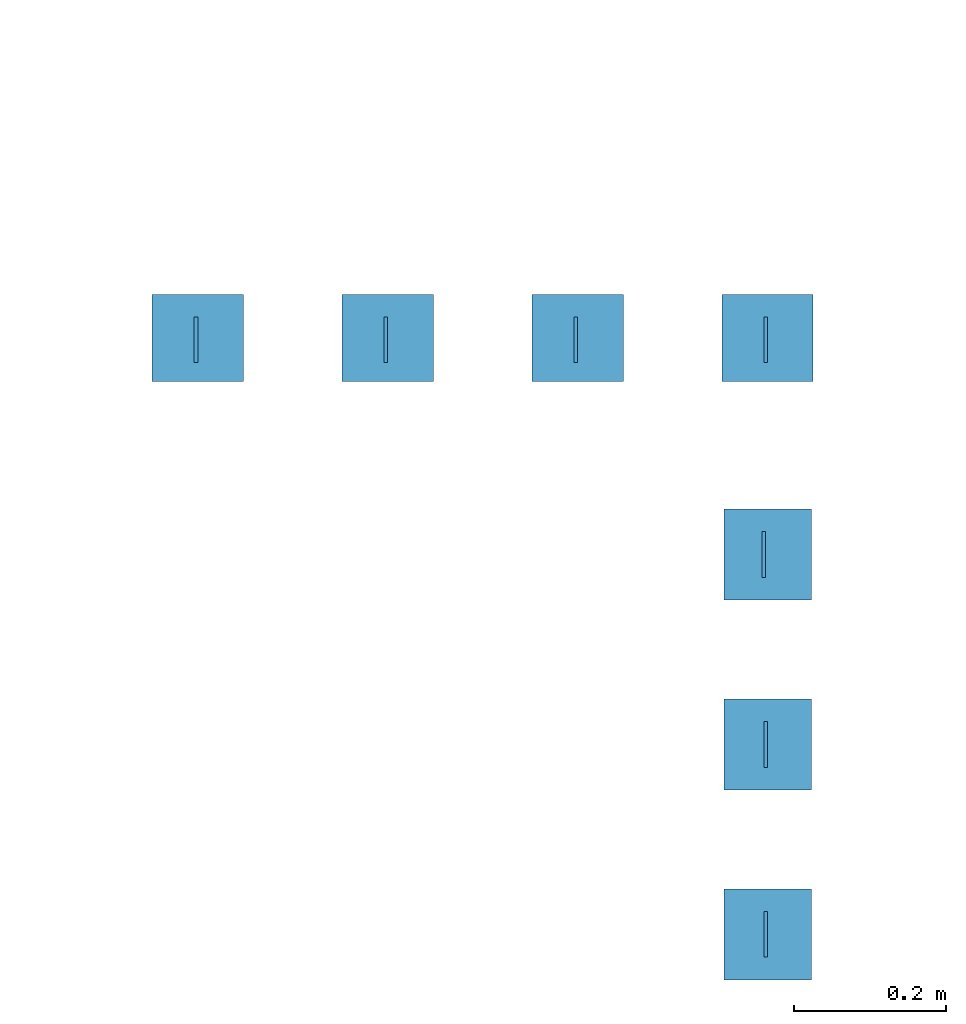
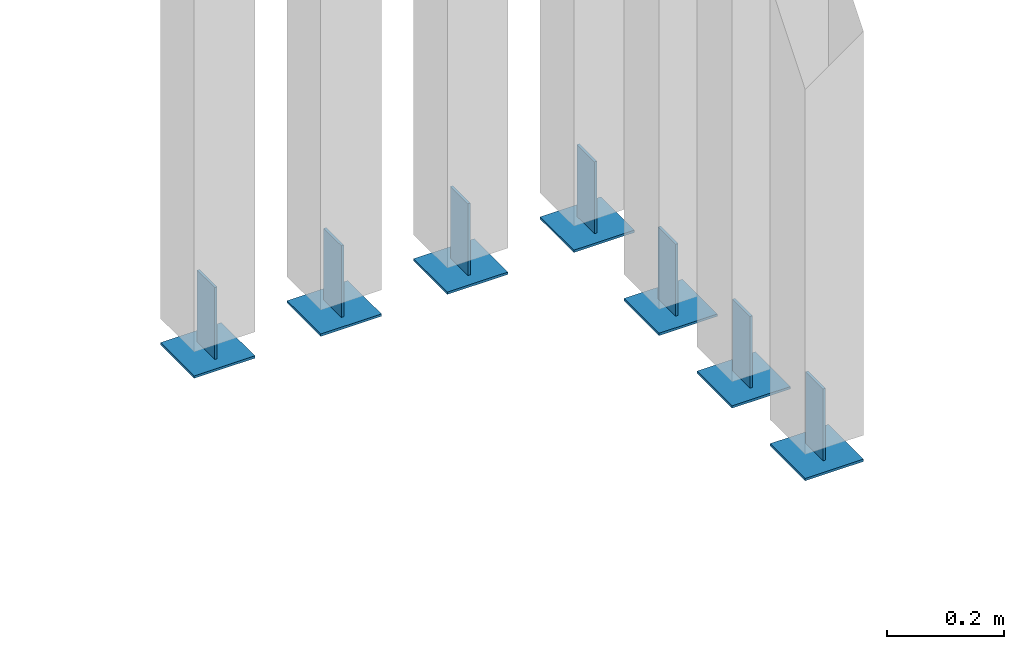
# One storey, part 235 of 260: 14 discrete accessories.
"""IFC2X3 building model written with IfcOpenShell, lengths in millimetres."""

import ifcopenshell
import ifcopenshell.guid

model = None  # the IFC model being written
_history = None  # IfcOwnerHistory: only IFC2X3 demands one
_inside = {}  # id of a spatial element -> (the spatial element, [elements in it])
_under = {}  # id of a project, library or spatial element -> (it, [spatial elements below it])
_declared = {}  # id of a project -> (the project, [libraries it declares])
_typed = {}  # id of a type object -> (the type object, [elements of that type])
_made_of = {}  # id of a material, layer set ... -> (it, [elements and type objects made of it])


def new_model(schema):
    """Start an empty IFC model of exactly this schema.

    Asked for "IFC4X3", IfcOpenShell would pick the latest addendum, in which some entities
    have other attributes; the version numbers below select the first issue.
    IFC2X3 requires an IfcOwnerHistory on every rooted entity: one is made here for all.
    """
    global model, _history
    if schema == "IFC4X3":
        model = ifcopenshell.file(schema_version=(4, 3, 0, 0))
    else:
        model = ifcopenshell.file(schema=schema)
    _inside.clear()
    _under.clear()
    _declared.clear()
    _typed.clear()
    _made_of.clear()
    _history = None
    if model.schema == "IFC2X3":
        org = make("IfcOrganization", Name="unknown")
        user = make(
            "IfcPersonAndOrganization",
            ThePerson=make("IfcPerson", FamilyName="unknown"),
            TheOrganization=org,
        )
        app = make(
            "IfcApplication",
            ApplicationDeveloper=org,
            Version="unknown",
            ApplicationFullName="unknown",
            ApplicationIdentifier="unknown",
        )
        _history = make(
            "IfcOwnerHistory",
            OwningUser=user,
            OwningApplication=app,
            ChangeAction="ADDED",
            CreationDate=0,
        )
    return model


def make(cls, **values):
    """One entity of the class cls with the attributes given. An attribute that is None is left unset."""
    return model.create_entity(
        cls, **{name: value for name, value in values.items() if value is not None}
    )


def entity(cls, *values):
    """Any entity or typed value of the class cls, its attributes in the order of the schema. None: left unset."""
    e = model.create_entity(cls)
    for i, value in enumerate(values):
        if value is not None:
            e[i] = value
    return e


def rooted(cls, **values):
    """An entity with a GlobalId (a new one), such as an element, a storey or a relation."""
    return make(cls, GlobalId=ifcopenshell.guid.new(), OwnerHistory=_history, **values)


def si_unit(unit_type, name, prefix=None):
    """IfcSIUnit, for example si_unit("LENGTHUNIT", "METRE", prefix="MILLI")."""
    return make("IfcSIUnit", UnitType=unit_type, Prefix=prefix, Name=name)


def converted_unit(unit_type, name, factor, base, dimensions=None, offset=None):
    """IfcConversionBasedUnit, such as the inch: factor (a typed value) times the base unit."""
    return make(
        "IfcConversionBasedUnit"
        if offset is None
        else "IfcConversionBasedUnitWithOffset",
        ConversionOffset=offset,
        Dimensions=None
        if dimensions is None
        else entity("IfcDimensionalExponents", *dimensions),
        UnitType=unit_type,
        Name=name,
        ConversionFactor=make(
            "IfcMeasureWithUnit", ValueComponent=factor, UnitComponent=base
        ),
    )


def derived_unit(unit_type, elements):
    """IfcDerivedUnit: a product of units, each with its exponent."""
    return make(
        "IfcDerivedUnit",
        Elements=[
            make("IfcDerivedUnitElement", Unit=unit, Exponent=power)
            for unit, power in elements
        ],
        UnitType=unit_type,
    )


def money_unit(currency):
    """IfcMonetaryUnit."""
    return make("IfcMonetaryUnit", Currency=currency)


def assignment(units):
    """IfcUnitAssignment: the units of a project."""
    return None if units is None else make("IfcUnitAssignment", Units=units)


def point(xyz):
    """IfcCartesianPoint."""
    return None if xyz is None else make("IfcCartesianPoint", Coordinates=xyz)


def direction(xyz):
    """IfcDirection."""
    return None if xyz is None else make("IfcDirection", DirectionRatios=xyz)


def frame(location, z_axis=None, x_axis=None):
    """IfcAxis2Placement3D, a coordinate frame: its origin and axes. An axis left out is left unset."""
    return make(
        "IfcAxis2Placement3D",
        Location=point(location),
        Axis=direction(z_axis),
        RefDirection=direction(x_axis),
    )


def origin_with_axes():
    """The frame at (0, 0, 0) with the z axis (0, 0, 1) and the x axis (1, 0, 0) written out."""
    return frame((0.0, 0.0, 0.0), z_axis=(0.0, 0.0, 1.0), x_axis=(1.0, 0.0, 0.0))


def place(relative_to, where):
    """IfcLocalPlacement: puts the frame where relative to a parent placement (None: the world)."""
    return make(
        "IfcLocalPlacement", PlacementRelTo=relative_to, RelativePlacement=where
    )


def context(
    kind, dimensions, precision=None, world=None, true_north=None, identifier=None
):
    """IfcGeometricRepresentationContext, for example the 3D "Model" context."""
    return make(
        "IfcGeometricRepresentationContext",
        ContextIdentifier=identifier,
        ContextType=kind,
        CoordinateSpaceDimension=dimensions,
        Precision=precision,
        WorldCoordinateSystem=world,
        TrueNorth=true_north,
    )


def subcontext(parent, identifier, kind, view, scale=None):
    """IfcGeometricRepresentationSubContext, for example "Body" below "Model"."""
    return make(
        "IfcGeometricRepresentationSubContext",
        ContextIdentifier=identifier,
        ContextType=kind,
        ParentContext=parent,
        TargetScale=scale,
        TargetView=view,
    )


def project(units=None, contexts=None):
    """IfcProject with its units and contexts."""
    return rooted(
        "IfcProject",
        Name="project",
        RepresentationContexts=contexts,
        UnitsInContext=assignment(units),
    )


def spatial(cls, under=None, at=None, **own):
    """A site, building, storey or space (cls), placed at a placement, below another one or the project."""
    s = rooted(cls, ObjectPlacement=at, **own)
    if under is not None:
        _under.setdefault(under.id(), (under, []))[1].append(s)
    return s


def faces_of(points, faces, orient=None, outer=None):
    """IfcFace entities. A face is a list of loops; a loop is a list of indices into points, from 0.

    orient and outer hold one flag for each loop. By default every Orientation is true, the
    first loop of a face is its IfcFaceOuterBound and the others are IfcFaceBound.
    """
    made = []
    for i, loops in enumerate(faces):
        bounds = []
        for j, loop in enumerate(loops):
            is_outer = j == 0 if outer is None else outer[i][j]
            bounds.append(
                make(
                    "IfcFaceOuterBound" if is_outer else "IfcFaceBound",
                    Bound=make("IfcPolyLoop", Polygon=[points[k] for k in loop]),
                    Orientation=True if orient is None else orient[i][j],
                )
            )
        made.append(make("IfcFace", Bounds=bounds))
    return made


def faceted_brep(points, faces, orient=None, outer=None, voids=None):
    """IfcFacetedBrep: a solid bounded by flat faces; with voids (closed shells), ...WithVoids."""
    shared = [point(p) for p in points]
    hull = make("IfcClosedShell", CfsFaces=faces_of(shared, faces, orient, outer))
    if voids is None:
        return make("IfcFacetedBrep", Outer=hull)
    return make(
        "IfcFacetedBrepWithVoids",
        Outer=hull,
        Voids=[
            make(cls, CfsFaces=faces_of(shared, fs, o, b)) for cls, fs, o, b in voids
        ],
    )


def shape(context_of_items, identifier, shape_type, items):
    """IfcShapeRepresentation: the items that make up one representation, for example the "Body"."""
    return make(
        "IfcShapeRepresentation",
        ContextOfItems=context_of_items,
        RepresentationIdentifier=identifier,
        RepresentationType=shape_type,
        Items=items,
    )


def material(Name=None, Category=None):
    """IfcMaterial."""
    return make("IfcMaterial", Name=Name, Category=Category)


def made_of(thing, what):
    """Note that an element or type object is made of a material, layer set ...; save() writes the relation."""
    if what is not None:
        _made_of.setdefault(what.id(), (what, []))[1].append(thing)
    return thing


def type_object(cls, material=None, **own):
    """A type object (cls), such as IfcWallType, which elements share."""
    return made_of(rooted(cls, **own), material)


def element(
    cls,
    number,
    at=None,
    inside=None,
    cuts=None,
    type_object=None,
    material=None,
    context=None,
    identifier="Body",
    shape_type=None,
    held_by="IfcProductDefinitionShape",
    body=None,
    shapes=None,
    **own,
):
    """One element of the class cls, such as IfcWall. Its Tag is "e" and its number.

    at: its placement. inside: the storey or other place that contains it. cuts: it is an
    opening in that element (IfcRelVoidsElement). A single representation is given by context,
    identifier, shape_type and body (its items); several are given by shapes. held_by: the class
    of the entity that holds the representations. save() writes the other relations.
    """
    e = rooted(cls, Tag="e%d" % number, ObjectPlacement=at, **own)
    if body is not None:
        shapes = [shape(context, identifier, shape_type, body)]
    if shapes is not None:
        e.Representation = make(held_by, Representations=shapes)
    if inside is not None:
        _inside.setdefault(inside.id(), (inside, []))[1].append(e)
    if cuts is not None:
        rooted(
            "IfcRelVoidsElement", RelatingBuildingElement=cuts, RelatedOpeningElement=e
        )
    if type_object is not None:
        _typed.setdefault(type_object.id(), (type_object, []))[1].append(e)
    return made_of(e, material)


def aggregate(whole, parts):
    """IfcRelAggregates: a whole, such as a stair, and the parts it consists of."""
    return rooted("IfcRelAggregates", RelatingObject=whole, RelatedObjects=parts)


def save(model, path):
    """Write the relations noted so far, then the file.

    IfcRelAggregates (storeys below a building ...), IfcRelContainedInSpatialStructure (elements
    in a storey), IfcRelDefinesByType, IfcRelAssociatesMaterial and IfcRelDeclares: one each for
    every whole, place, type object, material and project.
    """
    for whole, parts in _under.values():
        aggregate(whole, parts)
    for where, things in _inside.values():
        rooted(
            "IfcRelContainedInSpatialStructure",
            RelatedElements=things,
            RelatingStructure=where,
        )
    for kind, things in _typed.values():
        rooted("IfcRelDefinesByType", RelatedObjects=things, RelatingType=kind)
    for what, things in _made_of.values():
        rooted("IfcRelAssociatesMaterial", RelatedObjects=things, RelatingMaterial=what)
    for by, libraries in _declared.values():
        rooted("IfcRelDeclares", RelatingContext=by, RelatedDefinitions=libraries)
    model.write(path)


model = new_model("IFC2X3")

# Units and contexts
model_context = context("Model", 3, precision=0.01, world=origin_with_axes(), true_north=direction((0.0, 1.0)))
body_context = subcontext(model_context, "Body", "Model", "MODEL_VIEW")
ifc_project = project(units=[si_unit("LENGTHUNIT", "METRE", prefix="MILLI"), si_unit("AREAUNIT", "SQUARE_METRE"), si_unit("VOLUMEUNIT", "CUBIC_METRE"), converted_unit("PLANEANGLEUNIT", "DEGREE", entity("IfcPlaneAngleMeasure", 0.0174532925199), si_unit("PLANEANGLEUNIT", "RADIAN"), dimensions=[0, 0, 0, 0, 0, 0, 0]), money_unit("EUR"), converted_unit("TIMEUNIT", "Year", entity("IfcTimeMeasure", 31556926.0), si_unit("TIMEUNIT", "SECOND"), dimensions=[0, 0, 1, 0, 0, 0, 0]), si_unit("MASSUNIT", "GRAM", prefix="KILO"), si_unit("THERMODYNAMICTEMPERATUREUNIT", "DEGREE_CELSIUS"), si_unit("LUMINOUSINTENSITYUNIT", "LUMEN"), si_unit("ENERGYUNIT", "JOULE", prefix="MEGA"), derived_unit("THERMALCONDUCTANCEUNIT", [(si_unit("POWERUNIT", "WATT"), 1), (si_unit("LENGTHUNIT", "METRE"), -1), (si_unit("THERMODYNAMICTEMPERATUREUNIT", "KELVIN"), -1)]), derived_unit("SPECIFICHEATCAPACITYUNIT", [(si_unit("ENERGYUNIT", "JOULE"), 1), (si_unit("MASSUNIT", "GRAM", prefix="KILO"), -1), (si_unit("THERMODYNAMICTEMPERATUREUNIT", "KELVIN"), -1)]), derived_unit("MASSDENSITYUNIT", [(si_unit("MASSUNIT", "GRAM", prefix="KILO"), 1), (si_unit("VOLUMEUNIT", "CUBIC_METRE"), -1)])], contexts=[model_context])

# Site, building, storey
site_placement = place(None, origin_with_axes())
site = spatial("IfcSite", under=ifc_project, at=site_placement, Name="Kolde pst 67a", CompositionType="ELEMENT")
building_placement = place(site_placement, origin_with_axes())
building = spatial("IfcBuilding", under=site, at=building_placement, Name="Riigigümnaasium", CompositionType="ELEMENT")
storey_placement = place(building_placement, origin_with_axes())
storey = spatial("IfcBuildingStorey", under=building, at=storey_placement, Name="1. korrus", CompositionType="ELEMENT", Elevation=0.0)

# Discrete accessories
ifc_material = material(Name="_METALL - teras")
discrete_accessory_type_1 = type_object("IfcDiscreteAccessoryType", Name="_METALL - teras 5")
discrete_accessory_1_placement = place(storey_placement, frame((46804.9780327, -292.555457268, -50.0), z_axis=(0.0, 0.0, 1.0), x_axis=(1.0, 0.0, 0.0)))
element("IfcDiscreteAccessory", 1, at=discrete_accessory_1_placement, inside=storey, type_object=discrete_accessory_type_1, material=ifc_material, Name="Terasdetail", context=body_context, shape_type="Brep", body=[
    faceted_brep([(0.0, 0.0, 0.0), (0.0, 0.0, -5.0), (0.00727163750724, -114.99999977, -5.0), (0.00727163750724, -114.99999977, 0.0), (119.99999976, 0.00758779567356, 0.0), (119.99999976, 0.00758779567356, -5.0), (120.007271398, -114.992411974, -5.0), (120.007271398, -114.992411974, 0.0)], [[[0, 1, 2, 3]], [[4, 5, 1, 0]], [[2, 1, 5, 6]], [[3, 2, 6, 7]], [[4, 0, 3, 7]], [[7, 6, 5, 4]]]),
])
discrete_accessory_2_placement = place(storey_placement, frame((47054.9780322, -292.53964936, -50.0), z_axis=(0.0, 0.0, 1.0), x_axis=(1.0, 0.0, 0.0)))
element("IfcDiscreteAccessory", 2, at=discrete_accessory_2_placement, inside=storey, type_object=discrete_accessory_type_1, material=ifc_material, Name="Terasdetail", context=body_context, shape_type="Brep", body=[
    faceted_brep([(0.0, 0.0, 0.0), (0.0, 0.0, -5.0), (0.00727163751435, -114.99999977, -5.0), (0.00727163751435, -114.99999977, 0.0), (119.99999976, 0.00758779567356, 0.0), (119.99999976, 0.00758779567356, -5.0), (120.007271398, -114.992411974, -5.0), (120.007271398, -114.992411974, 0.0)], [[[0, 1, 2, 3]], [[4, 5, 1, 0]], [[2, 1, 5, 6]], [[3, 2, 6, 7]], [[4, 0, 3, 7]], [[7, 6, 5, 4]]]),
])
discrete_accessory_3_placement = place(storey_placement, frame((47304.9780317, -292.523841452, -50.0), z_axis=(0.0, 0.0, 1.0), x_axis=(1.0, 0.0, 0.0)))
element("IfcDiscreteAccessory", 3, at=discrete_accessory_3_placement, inside=storey, type_object=discrete_accessory_type_1, material=ifc_material, Name="Terasdetail", context=body_context, shape_type="Brep", body=[
    faceted_brep([(0.0, 0.0, 0.0), (0.0, 0.0, -5.0), (0.00727163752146, -114.99999977, -5.0), (0.00727163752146, -114.99999977, 0.0), (119.99999976, 0.00758779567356, 0.0), (119.99999976, 0.00758779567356, -5.0), (120.007271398, -114.992411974, -5.0), (120.007271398, -114.992411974, 0.0)], [[[0, 1, 2, 3]], [[4, 5, 1, 0]], [[2, 1, 5, 6]], [[3, 2, 6, 7]], [[4, 0, 3, 7]], [[7, 6, 5, 4]]]),
])
discrete_accessory_4_placement = place(storey_placement, frame((47554.9780312, -292.508033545, -50.0), z_axis=(0.0, 0.0, 1.0), x_axis=(1.0, 0.0, 0.0)))
element("IfcDiscreteAccessory", 4, at=discrete_accessory_4_placement, inside=storey, type_object=discrete_accessory_type_1, material=ifc_material, Name="Terasdetail", context=body_context, shape_type="Brep", body=[
    faceted_brep([(0.0, 0.0, 0.0), (0.0, 0.0, -5.0), (0.00727163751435, -114.99999977, -5.0), (0.00727163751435, -114.99999977, 0.0), (119.99999976, 0.00758779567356, 0.0), (119.99999976, 0.00758779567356, -5.0), (120.007271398, -114.992411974, -5.0), (120.007271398, -114.992411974, 0.0)], [[[0, 1, 2, 3]], [[4, 5, 1, 0]], [[2, 1, 5, 6]], [[3, 2, 6, 7]], [[4, 0, 3, 7]], [[7, 6, 5, 4]]]),
])
for number, where, z_axis, x_axis in (
    (5, (47557.4854611, -575.007717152, -50.0), (0.0, 0.0, 1.0), (1.0, 0.0, 0.0)),
    (6, (47557.4854611, -825.007717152, -50.0), (0.0, 0.0, 1.0), (1.0, 0.0, 0.0)),
    (7, (47557.4854611, -1075.00771715, -50.0), (0.0, 0.0, 1.0), (1.0, 0.0, 0.0)),
):
    element("IfcDiscreteAccessory", number, at=place(storey_placement, frame(where, z_axis=z_axis, x_axis=x_axis)), inside=storey, type_object=discrete_accessory_type_1, material=ifc_material, Name="Terasdetail", context=body_context, shape_type="Brep", body=[
        faceted_brep([(0.0, 0.0, 0.0), (0.0, 0.0, -5.0), (0.00758779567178, -119.99999976, -5.0), (0.00758779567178, -119.99999976, 0.0), (114.99999954, 0.00727163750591, 0.0), (114.99999954, 0.00727163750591, -5.0), (115.007587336, -119.992728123, -5.0), (115.007587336, -119.992728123, 0.0)], [[[0, 1, 2, 3]], [[4, 5, 1, 0]], [[2, 1, 5, 6]], [[3, 2, 6, 7]], [[4, 0, 3, 7]], [[7, 6, 5, 4]]]),
    ])
discrete_accessory_type_2 = type_object("IfcDiscreteAccessoryType", Name="_METALL - teras 150")
for number, where, z_axis, x_axis in (
    (8, (46864.9799295, -322.55166331, 100.0), (0.0, 0.0, 1.0), (1.0, 0.0, 0.0)),
    (9, (47114.979929, -322.535855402, 100.0), (0.0, 0.0, 1.0), (1.0, 0.0, 0.0)),
    (10, (47364.9799285, -322.520047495, 100.0), (0.0, 0.0, 1.0), (1.0, 0.0, 0.0)),
    (11, (47614.979928, -322.504239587, 100.0), (0.0, 0.0, 1.0), (1.0, 0.0, 0.0)),
):
    element("IfcDiscreteAccessory", number, at=place(storey_placement, frame(where, z_axis=z_axis, x_axis=x_axis)), inside=storey, type_object=discrete_accessory_type_2, material=ifc_material, Name="Terasdetail", context=body_context, shape_type="Brep", body=[
        faceted_brep([(0.0, 0.0, 0.0), (0.0, 0.0, -150.0), (-4.99999999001, -0.000316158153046, -150.0), (-4.99999999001, -0.000316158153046, 0.0), (0.00379389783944, -59.9999998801, 0.0), (0.00379389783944, -59.9999998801, -150.0), (-4.99620609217, -60.0003160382, -150.0), (-4.99620609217, -60.0003160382, 0.0)], [[[0, 1, 2, 3]], [[4, 5, 1, 0]], [[2, 1, 5, 6]], [[3, 2, 6, 7]], [[4, 0, 3, 7]], [[7, 6, 5, 4]]]),
    ])
for number, where, z_axis, x_axis in (
    (12, (47612.4873577, -605.004239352, 100.0), (0.0, 0.0, 1.0), (1.0, 0.0, 0.0)),
    (13, (47615.0135989, -855.004079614, 100.0), (0.0, 0.0, 1.0), (1.0, 0.0, 0.0)),
    (14, (47615.0294068, -1105.00407861, 100.0), (0.0, 0.0, 1.0), (1.0, 0.0, 0.0)),
):
    element("IfcDiscreteAccessory", number, at=place(storey_placement, frame(where, z_axis=z_axis, x_axis=x_axis)), inside=storey, type_object=discrete_accessory_type_2, material=ifc_material, Name="Terasdetail", context=body_context, shape_type="Brep", body=[
        faceted_brep([(0.0, 0.0, 0.0), (0.0, 0.0, -150.0), (-4.99999999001, -0.000316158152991, -150.0), (-4.99999999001, -0.000316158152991, 0.0), (0.00379389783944, -59.9999998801, 0.0), (0.00379389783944, -59.9999998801, -150.0), (-4.99620609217, -60.0003160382, -150.0), (-4.99620609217, -60.0003160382, 0.0)], [[[0, 1, 2, 3]], [[4, 5, 1, 0]], [[2, 1, 5, 6]], [[3, 2, 6, 7]], [[4, 0, 3, 7]], [[7, 6, 5, 4]]]),
    ])

save(model, "model.ifc")
